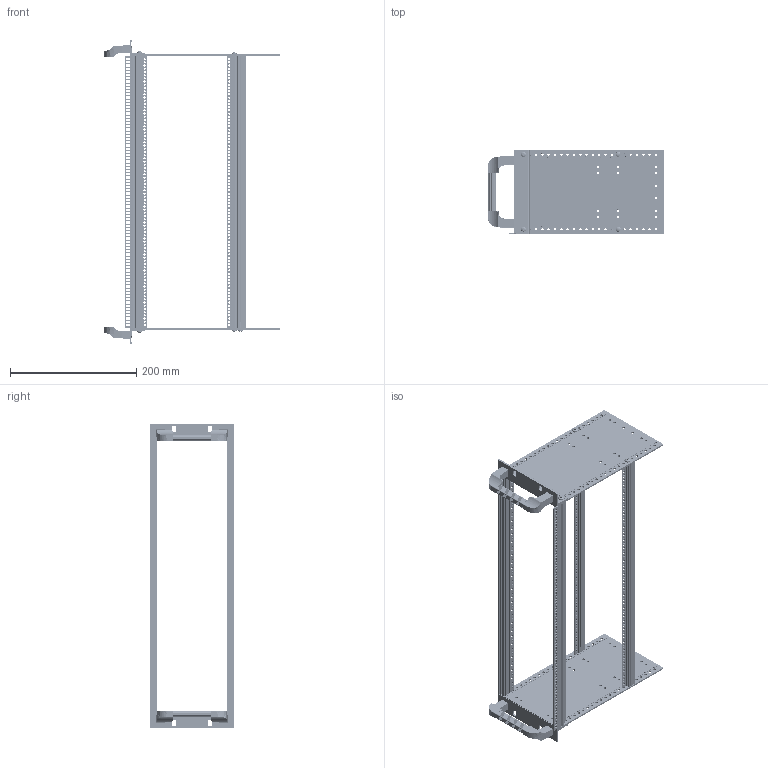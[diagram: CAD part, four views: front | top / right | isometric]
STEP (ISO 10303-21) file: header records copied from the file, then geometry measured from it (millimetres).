
FILE_DESCRIPTION(('OneSpaceDesigner STEP Export'),'2;1');
FILE_NAME('24531531.stp','2011-02-15T12:18:02',(''),(''),'OneSpace Designer STEP processor for AP214 (Solid Model)','OneSpace Modeling 15.50A 21-Sep-2007 (C) CoCreate Software GmbH','');
FILE_SCHEMA(('AUTOMOTIVE_DESIGN { 1 0 10303 214 1 1 1 1 }'));
Length unit declared in the file: millimetre
Products named in the file (13): 0630121_Senkschr_M5x12St.1.1; 0630096_Linsenschraube_M4x12St.1.1.1.1.1.1; 061133601_Griffrohr.1; 061130002_Kopfstück_für_Griffrohr.1; 061130001_Kopfstück_für_Griffrohr; 024530250_Seitenwand_3HE_T236; 0240051_Gewindeleiste_85TE_7x2_M2.1; 024102201_Modulschiene_85TE_Standard.1; 024101301_Modulschiene_85TE_Bus.1; 024100203_Frontwinkel_3HE; 0240061_Gewindeleiste_85TE_5x1.5_M2; 024104985_Modsch10mmdach_85TE; 024531531_BGT_V_3_84TE_T_236
Assembly tree (30 placements, depth 2):
  024531531_BGT_V_3_84TE_T_236
    024104985_Modsch10mmdach_85TE
    0240051_Gewindeleiste_85TE_7x2_M2.1  x2
    0240061_Gewindeleiste_85TE_5x1.5_M2  x2
    024100203_Frontwinkel_3HE  x2
    024101301_Modulschiene_85TE_Bus.1  x2
    024102201_Modulschiene_85TE_Standard.1
    024530250_Seitenwand_3HE_T236  x2
    061130001_Kopfstück_für_Griffrohr  x2
    061130002_Kopfstück_für_Griffrohr.1  x2
    061133601_Griffrohr.1  x2
    0630096_Linsenschraube_M4x12St.1.1.1.1.1.1  x8
    0630121_Senkschr_M5x12St.1.1  x4
Bounding box: 279.58 x 132.5 x 482.1 mm (x, y, z)
Volume: 415112.1 mm3; surface area: 409499.4 mm2
Topology: 30 solids, 30 shells, 4796 faces, 13536 edges, 8996 vertices
Faces by surface type: plane 2170, cylinder 1838, cone 752, torus 16, bspline 16, extrusion 4
Entity records: 87327 total; most frequent: CARTESIAN_POINT 16358, ORIENTED_EDGE 15658, DIRECTION 13117, EDGE_CURVE 7829, VERTEX_POINT 5206, VECTOR 4831, LINE 4829, AXIS2_PLACEMENT_3D 4143
